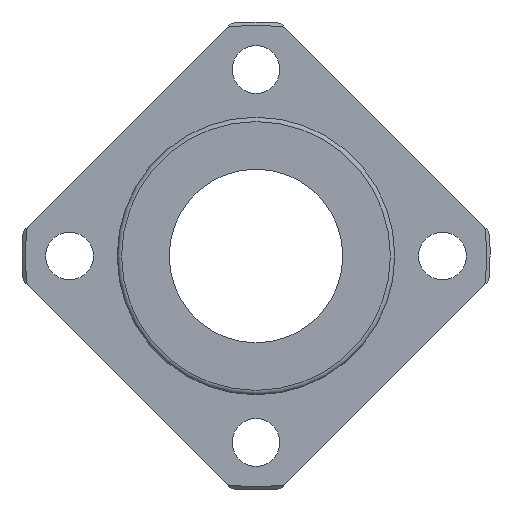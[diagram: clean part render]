
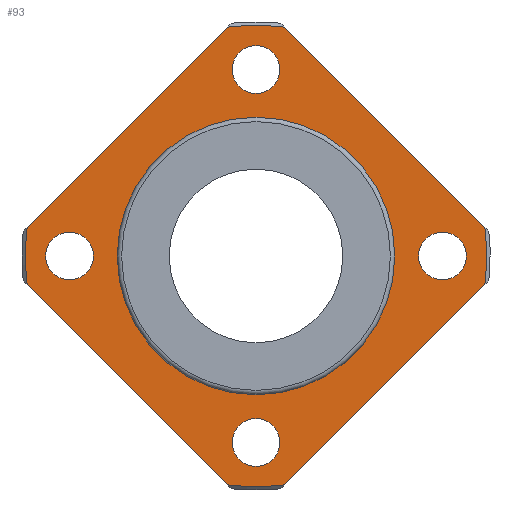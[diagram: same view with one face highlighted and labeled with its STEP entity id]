
A CAD part, left-side view. The second image highlights one B-rep face of the part: STEP entity #93.
In plain terms, the highlighted planar face has unit normal (-1, 0, 0).
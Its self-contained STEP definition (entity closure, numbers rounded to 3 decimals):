
#93=ADVANCED_FACE('',(#171,#172,#173,#174,#175,#176),#177,.T.);
#171=FACE_BOUND('',#286,.T.);
#172=FACE_BOUND('',#287,.T.);
#173=FACE_BOUND('',#288,.T.);
#174=FACE_BOUND('',#289,.T.);
#175=FACE_BOUND('',#290,.T.);
#176=FACE_OUTER_BOUND('',#291,.T.);
#177=PLANE('',#292);
#286=EDGE_LOOP('',(#468));
#287=EDGE_LOOP('',(#469));
#288=EDGE_LOOP('',(#470));
#289=EDGE_LOOP('',(#471));
#290=EDGE_LOOP('',(#472));
#291=EDGE_LOOP('',(#473,#474,#475,#476,#477,#478,#479,#480));
#292=AXIS2_PLACEMENT_3D('',#481,#482,#483);
#468=ORIENTED_EDGE('',*,*,#664,.T.);
#469=ORIENTED_EDGE('',*,*,#662,.T.);
#470=ORIENTED_EDGE('',*,*,#657,.T.);
#471=ORIENTED_EDGE('',*,*,#672,.T.);
#472=ORIENTED_EDGE('',*,*,#659,.T.);
#473=ORIENTED_EDGE('',*,*,#673,.F.);
#474=ORIENTED_EDGE('',*,*,#637,.T.);
#475=ORIENTED_EDGE('',*,*,#674,.F.);
#476=ORIENTED_EDGE('',*,*,#645,.T.);
#477=ORIENTED_EDGE('',*,*,#675,.F.);
#478=ORIENTED_EDGE('',*,*,#626,.T.);
#479=ORIENTED_EDGE('',*,*,#676,.F.);
#480=ORIENTED_EDGE('',*,*,#677,.T.);
#481=CARTESIAN_POINT('',(-8.0,21.05,0.0));
#482=DIRECTION('',(-1.0,0.,0.));
#483=DIRECTION('',(0.,0.0,1.0));
#626=EDGE_CURVE('',#707,#705,#708,.T.);
#637=EDGE_CURVE('',#728,#726,#729,.T.);
#645=EDGE_CURVE('',#743,#741,#744,.T.);
#657=EDGE_CURVE('',#764,#764,#765,.T.);
#659=EDGE_CURVE('',#768,#768,#769,.T.);
#662=EDGE_CURVE('',#774,#774,#775,.T.);
#664=EDGE_CURVE('',#778,#778,#779,.T.);
#672=EDGE_CURVE('',#794,#794,#795,.T.);
#673=EDGE_CURVE('',#728,#796,#797,.T.);
#674=EDGE_CURVE('',#743,#726,#798,.T.);
#675=EDGE_CURVE('',#707,#741,#799,.T.);
#676=EDGE_CURVE('',#800,#705,#801,.T.);
#677=EDGE_CURVE('',#800,#796,#802,.T.);
#705=VERTEX_POINT('',#846);
#707=VERTEX_POINT('',#851);
#708=LINE('',#852,#853);
#726=VERTEX_POINT('',#886);
#728=VERTEX_POINT('',#891);
#729=LINE('',#892,#893);
#741=VERTEX_POINT('',#917);
#743=VERTEX_POINT('',#922);
#744=LINE('',#923,#924);
#764=VERTEX_POINT('',#949);
#765=CIRCLE('',#950,2.75);
#768=VERTEX_POINT('',#953);
#769=CIRCLE('',#954,15.5);
#774=VERTEX_POINT('',#959);
#775=CIRCLE('',#960,2.75);
#778=VERTEX_POINT('',#963);
#779=CIRCLE('',#964,2.75);
#794=VERTEX_POINT('',#979);
#795=CIRCLE('',#980,2.75);
#796=VERTEX_POINT('',#981);
#797=CIRCLE('',#982,26.6);
#798=CIRCLE('',#983,26.6);
#799=CIRCLE('',#984,26.6);
#800=VERTEX_POINT('',#985);
#801=CIRCLE('',#986,26.6);
#802=LINE('',#987,#988);
#846=CARTESIAN_POINT('',(-8.0,3.305,-26.394));
#851=CARTESIAN_POINT('',(-8.0,26.394,-3.305));
#852=CARTESIAN_POINT('',(-8.0,25.374,-4.324));
#853=VECTOR('',#1036,1.0);
#886=CARTESIAN_POINT('',(-8.0,-3.305,26.394));
#891=CARTESIAN_POINT('',(-8.0,-26.394,3.305));
#892=CARTESIAN_POINT('',(-8.0,-4.324,25.374));
#893=VECTOR('',#1046,1.0);
#917=CARTESIAN_POINT('',(-8.0,26.394,3.305));
#922=CARTESIAN_POINT('',(-8.0,3.305,26.394));
#923=CARTESIAN_POINT('',(-8.0,25.374,4.324));
#924=VECTOR('',#1050,1.0);
#949=CARTESIAN_POINT('',(-8.0,0.0,-18.75));
#950=AXIS2_PLACEMENT_3D('',#1077,#1078,#1079);
#953=CARTESIAN_POINT('',(-8.0,15.5,0.0));
#954=AXIS2_PLACEMENT_3D('',#1083,#1084,#1085);
#959=CARTESIAN_POINT('',(-8.0,-21.5,2.75));
#960=AXIS2_PLACEMENT_3D('',#1092,#1093,#1094);
#963=CARTESIAN_POINT('',(-8.0,0.0,24.25));
#964=AXIS2_PLACEMENT_3D('',#1098,#1099,#1100);
#979=CARTESIAN_POINT('',(-8.0,21.5,2.75));
#980=AXIS2_PLACEMENT_3D('',#1122,#1123,#1124);
#981=CARTESIAN_POINT('',(-8.0,-26.394,-3.305));
#982=AXIS2_PLACEMENT_3D('',#1125,#1126,#1127);
#983=AXIS2_PLACEMENT_3D('',#1128,#1129,#1130);
#984=AXIS2_PLACEMENT_3D('',#1131,#1132,#1133);
#985=CARTESIAN_POINT('',(-8.0,-3.305,-26.394));
#986=AXIS2_PLACEMENT_3D('',#1134,#1135,#1136);
#987=CARTESIAN_POINT('',(-8.0,-4.324,-25.374));
#988=VECTOR('',#1137,1.0);
#1036=DIRECTION('',(0.,-0.707,-0.707));
#1046=DIRECTION('',(0.,0.707,0.707));
#1050=DIRECTION('',(0.,0.707,-0.707));
#1077=CARTESIAN_POINT('',(-8.0,0.0,-21.5));
#1078=DIRECTION('',(1.0,0.,0.));
#1079=DIRECTION('',(0.,0.0,-1.0));
#1083=CARTESIAN_POINT('',(-8.0,0.0,0.0));
#1084=DIRECTION('',(1.0,0.0,0.));
#1085=DIRECTION('',(0.0,1.0,0.0));
#1092=CARTESIAN_POINT('',(-8.0,-21.5,0.));
#1093=DIRECTION('',(1.0,0.,0.));
#1094=DIRECTION('',(0.,0.0,-1.0));
#1098=CARTESIAN_POINT('',(-8.0,0.0,21.5));
#1099=DIRECTION('',(1.0,0.,0.));
#1100=DIRECTION('',(0.,0.0,-1.0));
#1122=CARTESIAN_POINT('',(-8.0,21.5,0.));
#1123=DIRECTION('',(1.0,0.,0.));
#1124=DIRECTION('',(0.,0.0,-1.0));
#1125=CARTESIAN_POINT('',(-8.0,0.0,0.0));
#1126=DIRECTION('',(1.0,0.0,0.));
#1127=DIRECTION('',(0.0,1.0,0.0));
#1128=CARTESIAN_POINT('',(-8.0,0.0,0.0));
#1129=DIRECTION('',(1.0,0.0,0.));
#1130=DIRECTION('',(0.0,1.0,0.0));
#1131=CARTESIAN_POINT('',(-8.0,0.0,0.0));
#1132=DIRECTION('',(1.0,0.0,0.));
#1133=DIRECTION('',(0.0,1.0,0.0));
#1134=CARTESIAN_POINT('',(-8.0,0.0,0.0));
#1135=DIRECTION('',(1.0,0.0,0.));
#1136=DIRECTION('',(0.0,1.0,0.0));
#1137=DIRECTION('',(0.,-0.707,0.707));
